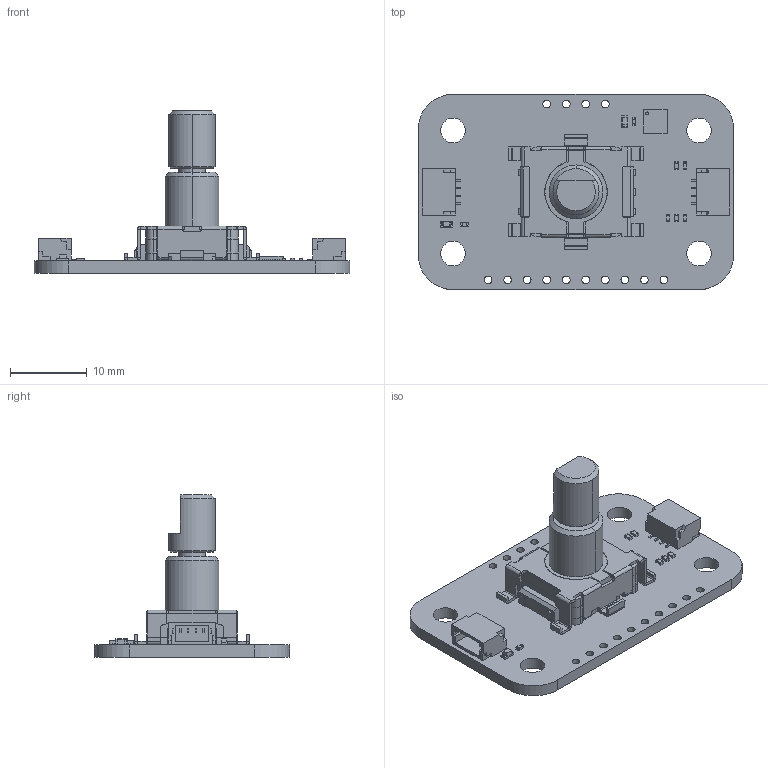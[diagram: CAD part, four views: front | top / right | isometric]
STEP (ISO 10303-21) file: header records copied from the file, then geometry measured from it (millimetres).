
FILE_DESCRIPTION(('Open CASCADE Model'),'2;1');
FILE_NAME('Open CASCADE Shape Model','2024-06-27T16:19:06',('Author'),( 'Open CASCADE'),'Open CASCADE STEP processor 7.5','Open CASCADE 7.5' ,'Unknown');
FILE_SCHEMA(('AUTOMOTIVE_DESIGN { 1 0 10303 214 1 1 1 1 }'));
Length unit declared in the file: millimetre
Products named in the file (44): PCB; Board; Open CASCADE STEP translator 7.5 13.1.1; C4; CAP-0603; C3; CAP-0402; R10; RES-0402; R6; R8; R11; R7; U1; 7552721664; Open CASCADE STEP translator 7.5 16.1; Body; Open CASCADE STEP translator 7.5 16.2.1; Pin Shape; Open CASCADE STEP translator 7.5 16.3.1; J1; SM04B-SRSS-TB_RGB12040119; J2; D1; HSMx-190; R1; ENCODER1; PEC11J-9215F-S0015; ED1114S-SMT_ASM_8_ASM; EB11001-M7B7_4; EA11009_2; ED11014_1; ER11005_ASM_1_ASM; ER11005-1_ASM_1_ASM; ER11005-2_1; EX11005_1; EI11009S_3; ET11010_1; ASM0007_ASM_3_ASM; PRT0012_1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
Assembly tree (68 placements, depth 7):
  PCB
    Board
      Open CASCADE STEP translator 7.5 13.1.1
    C4
      CAP-0603
    C3
      CAP-0402
    R10
      RES-0402
    R6
      RES-0402
    R8
      RES-0402
    R11
      RES-0402
    R7
      RES-0402
    U1
      7552721664
        Open CASCADE STEP translator 7.5 16.1
        Body
          Open CASCADE STEP translator 7.5 16.2.1
        Pin Shape  x20
          Open CASCADE STEP translator 7.5 16.3.1
    J1
      SM04B-SRSS-TB_RGB12040119
    J2
      SM04B-SRSS-TB_RGB12040119
    D1
      HSMx-190
    R1
      RES-0402
    ENCODER1
      PEC11J-9215F-S0015
        ED1114S-SMT_ASM_8_ASM
          EB11001-M7B7_4
          EA11009_2
          ED11014_1
          ER11005_ASM_1_ASM
            ER11005-1_ASM_1_ASM
              ER11005-2_1
              EX11005_1
          EI11009S_3
          ET11010_1
          ASM0007_ASM_3_ASM
            PRT0012_1
            EC11015_3
            Open CASCADE STEP translator 7.5 13.14.1.1.7.3
          EC11008_1
          ED11011-500G_1
Bounding box: 41 x 25.36 x 21.13 mm (x, y, z)
Volume: 2597.7 mm3; surface area: 6316 mm2
Topology: 44 solids, 46 shells, 2767 faces, 7825 edges, 5166 vertices
Faces by surface type: plane 1732, cylinder 926, cone 55, sphere 24, bspline 24, torus 6
Full cylindrical faces by diameter (mm): 0.07 x1, 0.388 x1, 1 x14, 2.05 x1, 3.2 x4
Entity records: 77921 total; most frequent: CARTESIAN_POINT 15065, DIRECTION 13049, ORIENTED_EDGE 12989, EDGE_CURVE 6495, AXIS2_PLACEMENT_3D 4510, VERTEX_POINT 4340, LINE 4029, VECTOR 4029
